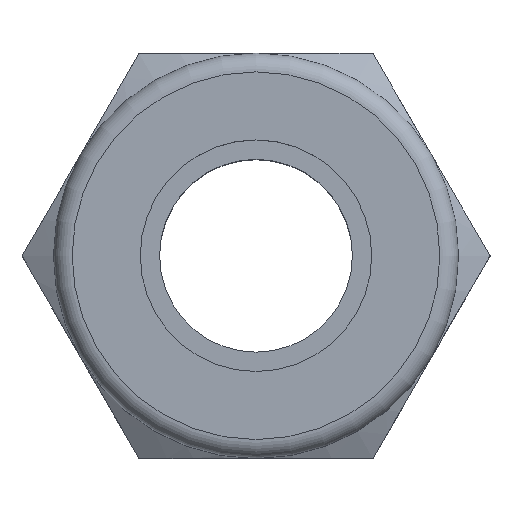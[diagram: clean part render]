
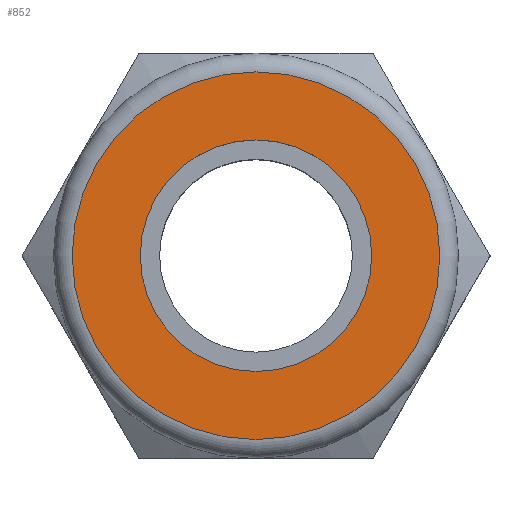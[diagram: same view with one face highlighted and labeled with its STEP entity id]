
A CAD part, top view. The second image highlights one B-rep face of the part: STEP entity #852.
In plain terms, the highlighted planar face has unit normal (0, 0, 1).
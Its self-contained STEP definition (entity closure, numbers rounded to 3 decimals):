
#43=FACE_BOUND('',#234,.T.);
#104=CIRCLE('',#963,3.177);
#105=CIRCLE('',#965,2.);
#171=FACE_OUTER_BOUND('',#233,.T.);
#233=EDGE_LOOP('',(#692));
#234=EDGE_LOOP('',(#693));
#425=VERTEX_POINT('',#1416);
#426=VERTEX_POINT('',#1420);
#518=EDGE_CURVE('',#425,#425,#104,.T.);
#519=EDGE_CURVE('',#426,#426,#105,.T.);
#692=ORIENTED_EDGE('',*,*,#518,.F.);
#693=ORIENTED_EDGE('',*,*,#519,.T.);
#808=PLANE('',#964);
#852=ADVANCED_FACE('',(#171,#43),#808,.T.);
#963=AXIS2_PLACEMENT_3D('',#1418,#1171,#1172);
#964=AXIS2_PLACEMENT_3D('',#1419,#1173,#1174);
#965=AXIS2_PLACEMENT_3D('',#1421,#1175,#1176);
#1171=DIRECTION('center_axis',(0.,0.,-1.));
#1172=DIRECTION('ref_axis',(1.,0.,0.));
#1173=DIRECTION('center_axis',(0.,0.,1.));
#1174=DIRECTION('ref_axis',(1.,0.,0.));
#1175=DIRECTION('center_axis',(0.,0.,-1.));
#1176=DIRECTION('ref_axis',(1.,0.,0.));
#1416=CARTESIAN_POINT('',(3.177,0.,5.));
#1418=CARTESIAN_POINT('Origin',(0.,0.,5.));
#1419=CARTESIAN_POINT('Origin',(-3.177,0.,5.));
#1420=CARTESIAN_POINT('',(2.,0.,5.));
#1421=CARTESIAN_POINT('Origin',(0.,0.,5.));
